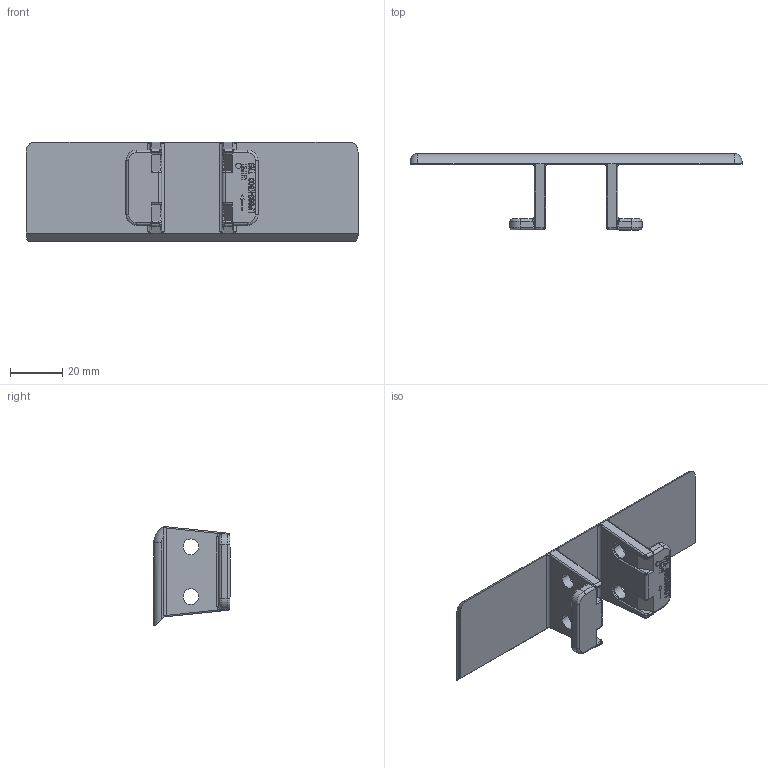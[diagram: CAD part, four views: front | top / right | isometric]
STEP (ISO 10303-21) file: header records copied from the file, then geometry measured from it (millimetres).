
FILE_DESCRIPTION((''),'2;1');
FILE_NAME('P1045','2015-12-23T',('bhe'),(''),'CREO PARAMETRIC BY PTC INC, 2015290','CREO PARAMETRIC BY PTC INC, 2015290','');
FILE_SCHEMA(('CONFIG_CONTROL_DESIGN'));
Length unit declared in the file: millimetre
Products named in the file (1): P1045
Bounding box: 127 x 29.4 x 37.91 mm (x, y, z)
Volume: 25588.8 mm3; surface area: 14925.2 mm2
Topology: 1 solids, 1 shells, 651 faces, 1771 edges, 1145 vertices
Faces by surface type: plane 499, cylinder 84, bspline 52, torus 16
Entity records: 22975 total; most frequent: CARTESIAN_POINT 6803, ORIENTED_EDGE 3536, DIRECTION 3033, EDGE_CURVE 1768, VECTOR 1479, LINE 1479, VERTEX_POINT 1145, AXIS2_PLACEMENT_3D 777
